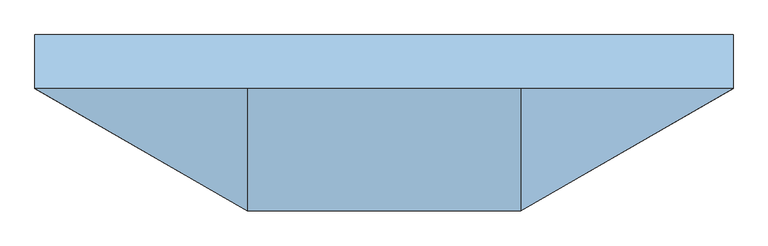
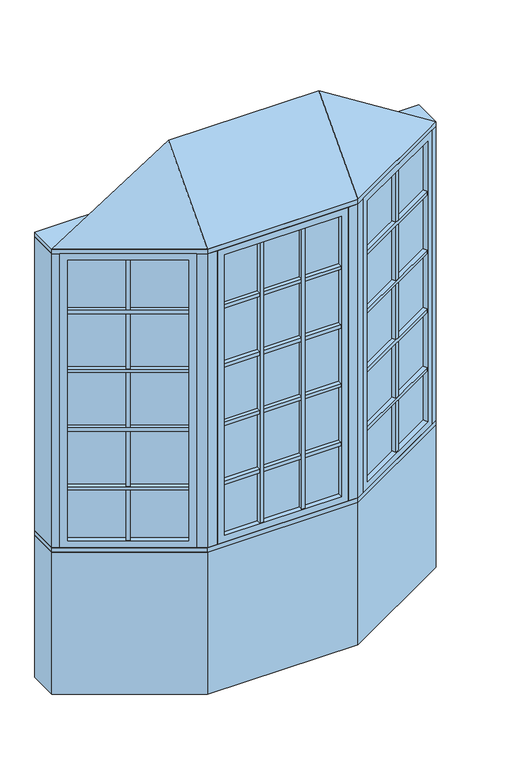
"""IFC4 building model written with IfcOpenShell, lengths in millimetres: window geometry, Pollard_Windows_Tudor Casement Bows and Bays : AML-BAY 30 AFR0516-10-600_GC."""

from ifc_helpers import new_model, si_unit, frame, origin, origin_with_axes, place, context, project, spatial, polyline, outline, extrude, faceted_brep, source, transform, mapped, element, save


def window_06915691(model_context):
    return source(origin(), model_context, "Body", "SolidModel", [
        extrude(outline(polyline([(460.381999, -376.6297343), (449.381999, -357.5771754), (915.6135794, -88.3982469), (926.6135794, -107.4508058), (460.381999, -376.6297343)])), frame((0.0, 0.0, 1110.998), z_axis=(0.0, 0.0, 1.0), x_axis=(1.0, 0.0, 0.0)), (0.0, 0.0, 1.0), 18.0),
        extrude(outline(polyline([(446.841999, -353.1777664), (435.841999, -334.1252075), (902.0735794, -64.946279), (913.0735794, -83.9988379), (446.841999, -353.1777664)])), frame((0.0, 0.0, 1110.998), z_axis=(0.0, 0.0, 1.0), x_axis=(1.0, 0.0, 0.0)), (0.0, 0.0, 1.0), 18.0),
        extrude(outline(polyline([(460.381999, -376.6297343), (449.381999, -357.5771754), (915.6135794, -88.3982469), (926.6135794, -107.4508058), (460.381999, -376.6297343)])), frame((0.0, 0.0, 1430.998), z_axis=(0.0, 0.0, 1.0), x_axis=(1.0, 0.0, 0.0)), (0.0, 0.0, 1.0), 18.0),
        extrude(outline(polyline([(446.841999, -353.1777664), (435.841999, -334.1252075), (902.0735794, -64.946279), (913.0735794, -83.9988379), (446.841999, -353.1777664)])), frame((0.0, 0.0, 1430.998), z_axis=(0.0, 0.0, 1.0), x_axis=(1.0, 0.0, 0.0)), (0.0, 0.0, 1.0), 18.0),
        extrude(outline(polyline([(460.381999, -376.6297343), (449.381999, -357.5771754), (915.6135794, -88.3982469), (926.6135794, -107.4508058), (460.381999, -376.6297343)])), frame((0.0, 0.0, 1750.998), z_axis=(0.0, 0.0, 1.0), x_axis=(1.0, 0.0, 0.0)), (0.0, 0.0, 1.0), 18.0),
        extrude(outline(polyline([(446.841999, -353.1777664), (435.841999, -334.1252075), (902.0735794, -64.946279), (913.0735794, -83.9988379), (446.841999, -353.1777664)])), frame((0.0, 0.0, 1750.998), z_axis=(0.0, 0.0, 1.0), x_axis=(1.0, 0.0, 0.0)), (0.0, 0.0, 1.0), 18.0),
        extrude(outline(polyline([(460.381999, -376.6297343), (449.381999, -357.5771754), (915.6135794, -88.3982469), (926.6135794, -107.4508058), (460.381999, -376.6297343)])), frame((0.0, 0.0, 2070.998), z_axis=(0.0, 0.0, 1.0), x_axis=(1.0, 0.0, 0.0)), (0.0, 0.0, 1.0), 18.0),
        extrude(outline(polyline([(446.841999, -353.1777664), (435.841999, -334.1252075), (902.0735794, -64.946279), (913.0735794, -83.9988379), (446.841999, -353.1777664)])), frame((0.0, 0.0, 2070.998), z_axis=(0.0, 0.0, 1.0), x_axis=(1.0, 0.0, 0.0)), (0.0, 0.0, 1.0), 18.0),
        extrude(outline(polyline([(690.2920178, -218.4877112), (701.2920178, -237.5402701), (685.7035606, -246.5402701), (674.7035606, -227.4877112), (690.2920178, -218.4877112)])), frame((0.0, 0.0, 835.8628), z_axis=(0.0, 0.0, 1.0), x_axis=(1.0, 0.0, 0.0)), (0.0, 0.0, 1.0), 1528.2704),
        extrude(outline(polyline([(687.7520178, -214.0883021), (672.1635606, -223.0883021), (661.1635606, -204.0357432), (676.7520178, -195.0357432), (687.7520178, -214.0883021)])), frame((0.0, 0.0, 835.8628), z_axis=(0.0, 0.0, 1.0), x_axis=(1.0, 0.0, 0.0)), (0.0, 0.0, 1.0), 1528.2704),
        extrude(outline(polyline([(926.612102, -82.0482469), (438.3834764, -363.9271754), (435.8434764, -359.5277664), (924.072102, -77.6488379), (926.612102, -82.0482469)])), frame((0.0, 0.0, 823.1628), z_axis=(0.0, 0.0, 1.0), x_axis=(1.0, 0.0, 0.0)), (0.0, 0.0, 1.0), 1553.6704),
        faceted_brep([(915.6135794, -88.3982469, 835.8628), (928.3135794, -110.3952922, 835.8628), (928.3135794, -110.3952922, 2364.1332), (915.6135794, -88.3982469, 2364.1332), (924.072102, -77.6488379, 823.1628), (926.612102, -82.0482469, 823.1628), (926.612102, -82.0482469, 2376.8332), (924.072102, -77.6488379, 2376.8332), (900.3735794, -62.0017926, 835.8628), (913.0735794, -83.9988379, 835.8628), (913.0735794, -83.9988379, 2364.1332), (900.3735794, -62.0017926, 2364.1332), (959.3734073, -92.4628922, 799.998), (931.4334073, -44.0693926, 799.998), (931.4334073, -44.0693926, 2399.998), (959.3734073, -92.4628922, 2399.998), (462.081999, -379.5742207, 2364.1332), (449.381999, -357.5771754, 2364.1332), (438.3834764, -363.9271754, 2376.8332), (435.8434764, -359.5277664, 2376.8332), (446.841999, -353.1777664, 2364.1332), (434.141999, -331.1807211, 2364.1332), (403.0821711, -349.1131211, 2399.998), (431.0221711, -397.5066207, 2399.998), (462.081999, -379.5742207, 835.8628), (449.381999, -357.5771754, 835.8628), (438.3834764, -363.9271754, 823.1628), (435.8434764, -359.5277664, 823.1628), (446.841999, -353.1777664, 835.8628), (434.141999, -331.1807211, 835.8628), (403.0821711, -349.1131211, 799.998), (431.0221711, -397.5066207, 799.998)], [[[0, 1, 2, 3]], [[4, 5, 6, 7]], [[8, 9, 10, 11]], [[12, 13, 14, 15]], [[3, 2, 16, 17]], [[7, 6, 18, 19]], [[11, 10, 20, 21]], [[15, 14, 22, 23]], [[17, 16, 24, 25]], [[19, 18, 26, 27]], [[21, 20, 28, 29]], [[23, 22, 30, 31]], [[25, 24, 1, 0]], [[5, 26, 18, 6], [3, 17, 25, 0]], [[27, 26, 5, 4]], [[7, 19, 27, 4], [9, 28, 20, 10]], [[29, 28, 9, 8]], [[13, 30, 22, 14], [11, 21, 29, 8]], [[31, 30, 13, 12]], [[15, 23, 31, 12], [1, 24, 16, 2]]]),
        extrude(outline(polyline([(116.852167, -397.1066207), (116.852167, -419.1066207), (98.852167, -419.1066207), (98.852167, -397.1066207), (116.852167, -397.1066207)])), frame((0.0, 0.0, 835.8628), z_axis=(0.0, 0.0, 1.0), x_axis=(1.0, 0.0, 0.0)), (0.0, 0.0, 1.0), 1528.2704),
        extrude(outline(polyline([(116.852167, -392.0266207), (98.852167, -392.0266207), (98.852167, -370.0266207), (116.852167, -370.0266207), (116.852167, -392.0266207)])), frame((0.0, 0.0, 835.8628), z_axis=(0.0, 0.0, 1.0), x_axis=(1.0, 0.0, 0.0)), (0.0, 0.0, 1.0), 1528.2704),
        extrude(outline(polyline([(-98.852167, -397.1066207), (-98.852167, -419.1066207), (-116.852167, -419.1066207), (-116.852167, -397.1066207), (-98.852167, -397.1066207)])), frame((0.0, 0.0, 835.8628), z_axis=(0.0, 0.0, 1.0), x_axis=(1.0, 0.0, 0.0)), (0.0, 0.0, 1.0), 1528.2704),
        extrude(outline(polyline([(-98.852167, -392.0266207), (-116.852167, -392.0266207), (-116.852167, -370.0266207), (-98.852167, -370.0266207), (-98.852167, -392.0266207)])), frame((0.0, 0.0, 835.8628), z_axis=(0.0, 0.0, 1.0), x_axis=(1.0, 0.0, 0.0)), (0.0, 0.0, 1.0), 1528.2704),
        extrude(outline(polyline([(-301.8561009, -419.1066207), (-301.8561009, -397.1066207), (301.8561009, -397.1066207), (301.8561009, -419.1066207), (-301.8561009, -419.1066207)])), frame((0.0, 0.0, 1110.998), z_axis=(0.0, 0.0, 1.0), x_axis=(1.0, 0.0, 0.0)), (0.0, 0.0, 1.0), 18.0),
        extrude(outline(polyline([(-301.8561009, -392.0266207), (-301.8561009, -370.0266207), (301.8561009, -370.0266207), (301.8561009, -392.0266207), (-301.8561009, -392.0266207)])), frame((0.0, 0.0, 1110.998), z_axis=(0.0, 0.0, 1.0), x_axis=(1.0, 0.0, 0.0)), (0.0, 0.0, 1.0), 18.0),
        extrude(outline(polyline([(-301.8561009, -419.1066207), (-301.8561009, -397.1066207), (301.8561009, -397.1066207), (301.8561009, -419.1066207), (-301.8561009, -419.1066207)])), frame((0.0, 0.0, 1430.998), z_axis=(0.0, 0.0, 1.0), x_axis=(1.0, 0.0, 0.0)), (0.0, 0.0, 1.0), 18.0),
        extrude(outline(polyline([(-301.8561009, -392.0266207), (-301.8561009, -370.0266207), (301.8561009, -370.0266207), (301.8561009, -392.0266207), (-301.8561009, -392.0266207)])), frame((0.0, 0.0, 1430.998), z_axis=(0.0, 0.0, 1.0), x_axis=(1.0, 0.0, 0.0)), (0.0, 0.0, 1.0), 18.0),
        extrude(outline(polyline([(-301.8561009, -419.1066207), (-301.8561009, -397.1066207), (301.8561009, -397.1066207), (301.8561009, -419.1066207), (-301.8561009, -419.1066207)])), frame((0.0, 0.0, 1750.998), z_axis=(0.0, 0.0, 1.0), x_axis=(1.0, 0.0, 0.0)), (0.0, 0.0, 1.0), 18.0),
        extrude(outline(polyline([(-301.8561009, -392.0266207), (-301.8561009, -370.0266207), (301.8561009, -370.0266207), (301.8561009, -392.0266207), (-301.8561009, -392.0266207)])), frame((0.0, 0.0, 1750.998), z_axis=(0.0, 0.0, 1.0), x_axis=(1.0, 0.0, 0.0)), (0.0, 0.0, 1.0), 18.0),
        extrude(outline(polyline([(-926.6135794, -107.4508058), (-915.6135794, -88.3982469), (-449.381999, -357.5771754), (-460.381999, -376.6297343), (-926.6135794, -107.4508058)])), frame((0.0, 0.0, 1110.998), z_axis=(0.0, 0.0, 1.0), x_axis=(1.0, 0.0, 0.0)), (0.0, 0.0, 1.0), 18.0),
        extrude(outline(polyline([(-913.0735794, -83.9988379), (-902.0735794, -64.946279), (-435.841999, -334.1252075), (-446.841999, -353.1777664), (-913.0735794, -83.9988379)])), frame((0.0, 0.0, 1110.998), z_axis=(0.0, 0.0, 1.0), x_axis=(1.0, 0.0, 0.0)), (0.0, 0.0, 1.0), 18.0),
        extrude(outline(polyline([(-926.6135794, -107.4508058), (-915.6135794, -88.3982469), (-449.381999, -357.5771754), (-460.381999, -376.6297343), (-926.6135794, -107.4508058)])), frame((0.0, 0.0, 1430.998), z_axis=(0.0, 0.0, 1.0), x_axis=(1.0, 0.0, 0.0)), (0.0, 0.0, 1.0), 18.0),
        extrude(outline(polyline([(-913.0735794, -83.9988379), (-902.0735794, -64.946279), (-435.841999, -334.1252075), (-446.841999, -353.1777664), (-913.0735794, -83.9988379)])), frame((0.0, 0.0, 1430.998), z_axis=(0.0, 0.0, 1.0), x_axis=(1.0, 0.0, 0.0)), (0.0, 0.0, 1.0), 18.0),
        extrude(outline(polyline([(-926.6135794, -107.4508058), (-915.6135794, -88.3982469), (-449.381999, -357.5771754), (-460.381999, -376.6297343), (-926.6135794, -107.4508058)])), frame((0.0, 0.0, 1750.998), z_axis=(0.0, 0.0, 1.0), x_axis=(1.0, 0.0, 0.0)), (0.0, 0.0, 1.0), 18.0),
        extrude(outline(polyline([(-913.0735794, -83.9988379), (-902.0735794, -64.946279), (-435.841999, -334.1252075), (-446.841999, -353.1777664), (-913.0735794, -83.9988379)])), frame((0.0, 0.0, 1750.998), z_axis=(0.0, 0.0, 1.0), x_axis=(1.0, 0.0, 0.0)), (0.0, 0.0, 1.0), 18.0),
        extrude(outline(polyline([(-926.6135794, -107.4508058), (-915.6135794, -88.3982469), (-449.381999, -357.5771754), (-460.381999, -376.6297343), (-926.6135794, -107.4508058)])), frame((0.0, 0.0, 2070.998), z_axis=(0.0, 0.0, 1.0), x_axis=(1.0, 0.0, 0.0)), (0.0, 0.0, 1.0), 18.0),
        extrude(outline(polyline([(-913.0735794, -83.9988379), (-902.0735794, -64.946279), (-435.841999, -334.1252075), (-446.841999, -353.1777664), (-913.0735794, -83.9988379)])), frame((0.0, 0.0, 2070.998), z_axis=(0.0, 0.0, 1.0), x_axis=(1.0, 0.0, 0.0)), (0.0, 0.0, 1.0), 18.0),
        extrude(outline(polyline([(-301.8561009, -419.1066207), (-301.8561009, -397.1066207), (301.8561009, -397.1066207), (301.8561009, -419.1066207), (-301.8561009, -419.1066207)])), frame((0.0, 0.0, 2070.998), z_axis=(0.0, 0.0, 1.0), x_axis=(1.0, 0.0, 0.0)), (0.0, 0.0, 1.0), 18.0),
        extrude(outline(polyline([(-301.8561009, -392.0266207), (-301.8561009, -370.0266207), (301.8561009, -370.0266207), (301.8561009, -392.0266207), (-301.8561009, -392.0266207)])), frame((0.0, 0.0, 2070.998), z_axis=(0.0, 0.0, 1.0), x_axis=(1.0, 0.0, 0.0)), (0.0, 0.0, 1.0), 18.0),
        extrude(outline(polyline([(-674.7035606, -227.4877112), (-685.7035606, -246.5402701), (-701.2920178, -237.5402701), (-690.2920178, -218.4877112), (-674.7035606, -227.4877112)])), frame((0.0, 0.0, 835.8628), z_axis=(0.0, 0.0, 1.0), x_axis=(1.0, 0.0, 0.0)), (0.0, 0.0, 1.0), 1528.2704),
        extrude(outline(polyline([(-672.1635606, -223.0883021), (-687.7520178, -214.0883021), (-676.7520178, -195.0357432), (-661.1635606, -204.0357432), (-672.1635606, -223.0883021)])), frame((0.0, 0.0, 835.8628), z_axis=(0.0, 0.0, 1.0), x_axis=(1.0, 0.0, 0.0)), (0.0, 0.0, 1.0), 1528.2704),
        extrude(outline(polyline([(-438.3834764, -363.9271754), (-926.612102, -82.0482469), (-924.072102, -77.6488379), (-435.8434764, -359.5277664), (-438.3834764, -363.9271754)])), frame((0.0, 0.0, 823.1628), z_axis=(0.0, 0.0, 1.0), x_axis=(1.0, 0.0, 0.0)), (0.0, 0.0, 1.0), 1553.6704),
        faceted_brep([(-446.841999, -353.1777664, 2364.1332), (-434.141999, -331.1807211, 2364.1332), (-434.141999, -331.1807211, 835.8628), (-446.841999, -353.1777664, 835.8628), (-438.3834764, -363.9271754, 2376.8332), (-435.8434764, -359.5277664, 2376.8332), (-435.8434764, -359.5277664, 823.1628), (-438.3834764, -363.9271754, 823.1628), (-462.081999, -379.5742207, 2364.1332), (-449.381999, -357.5771754, 2364.1332), (-449.381999, -357.5771754, 835.8628), (-462.081999, -379.5742207, 835.8628), (-403.0821711, -349.1131211, 2399.998), (-431.0221711, -397.5066207, 2399.998), (-431.0221711, -397.5066207, 799.998), (-403.0821711, -349.1131211, 799.998), (-900.3735794, -62.0017926, 835.8628), (-913.0735794, -83.9988379, 835.8628), (-924.072102, -77.6488379, 823.1628), (-926.612102, -82.0482469, 823.1628), (-915.6135794, -88.3982469, 835.8628), (-928.3135794, -110.3952922, 835.8628), (-959.3734073, -92.4628922, 799.998), (-931.4334073, -44.0693926, 799.998), (-900.3735794, -62.0017926, 2364.1332), (-913.0735794, -83.9988379, 2364.1332), (-924.072102, -77.6488379, 2376.8332), (-926.612102, -82.0482469, 2376.8332), (-915.6135794, -88.3982469, 2364.1332), (-928.3135794, -110.3952922, 2364.1332), (-959.3734073, -92.4628922, 2399.998), (-931.4334073, -44.0693926, 2399.998)], [[[0, 1, 2, 3]], [[4, 5, 6, 7]], [[8, 9, 10, 11]], [[12, 13, 14, 15]], [[3, 2, 16, 17]], [[7, 6, 18, 19]], [[11, 10, 20, 21]], [[15, 14, 22, 23]], [[17, 16, 24, 25]], [[19, 18, 26, 27]], [[21, 20, 28, 29]], [[23, 22, 30, 31]], [[15, 23, 31, 12], [1, 24, 16, 2]], [[25, 24, 1, 0]], [[5, 26, 18, 6], [3, 17, 25, 0]], [[27, 26, 5, 4]], [[7, 19, 27, 4], [9, 28, 20, 10]], [[29, 28, 9, 8]], [[13, 30, 22, 14], [11, 21, 29, 8]], [[31, 30, 13, 12]]]),
        extrude(outline(polyline([(314.5561009, -397.1066207), (-314.5561009, -397.1066207), (-314.5561009, -392.0266207), (314.5561009, -392.0266207), (314.5561009, -397.1066207)])), frame((0.0, 0.0, 823.1628), z_axis=(0.0, 0.0, 1.0), x_axis=(1.0, 0.0, 0.0)), (0.0, 0.0, 1.0), 1553.6704),
        faceted_brep([(301.8561009, -397.1066207, 835.8628), (301.8561009, -422.5066207, 835.8628), (301.8561009, -422.5066207, 2364.1332), (301.8561009, -397.1066207, 2364.1332), (314.5561009, -392.0266207, 823.1628), (314.5561009, -397.1066207, 823.1628), (314.5561009, -397.1066207, 2376.8332), (314.5561009, -392.0266207, 2376.8332), (301.8561009, -366.6266207, 835.8628), (301.8561009, -392.0266207, 835.8628), (301.8561009, -392.0266207, 2364.1332), (301.8561009, -366.6266207, 2364.1332), (337.7209009, -422.5066207, 799.998), (337.7209009, -366.6266207, 799.998), (337.7209009, -366.6266207, 2399.998), (337.7209009, -422.5066207, 2399.998), (-301.8561009, -422.5066207, 2364.1332), (-301.8561009, -397.1066207, 2364.1332), (-314.5561009, -397.1066207, 2376.8332), (-314.5561009, -392.0266207, 2376.8332), (-301.8561009, -392.0266207, 2364.1332), (-301.8561009, -366.6266207, 2364.1332), (-337.7209009, -366.6266207, 2399.998), (-337.7209009, -422.5066207, 2399.998), (-301.8561009, -422.5066207, 835.8628), (-301.8561009, -397.1066207, 835.8628), (-314.5561009, -397.1066207, 823.1628), (-314.5561009, -392.0266207, 823.1628), (-301.8561009, -392.0266207, 835.8628), (-301.8561009, -366.6266207, 835.8628), (-337.7209009, -366.6266207, 799.998), (-337.7209009, -422.5066207, 799.998)], [[[0, 1, 2, 3]], [[4, 5, 6, 7]], [[8, 9, 10, 11]], [[12, 13, 14, 15]], [[3, 2, 16, 17]], [[7, 6, 18, 19]], [[11, 10, 20, 21]], [[15, 14, 22, 23]], [[17, 16, 24, 25]], [[19, 18, 26, 27]], [[21, 20, 28, 29]], [[23, 22, 30, 31]], [[15, 23, 31, 12], [1, 24, 16, 2]], [[25, 24, 1, 0]], [[5, 26, 18, 6], [3, 17, 25, 0]], [[27, 26, 5, 4]], [[7, 19, 27, 4], [9, 28, 20, 10]], [[29, 28, 9, 8]], [[13, 30, 22, 14], [11, 21, 29, 8]], [[31, 30, 13, 12]]]),
        faceted_brep([(990.0, -74.7806207, 2425.398), (387.7209009, -422.5066207, 2425.398), (-387.7209009, -422.5066207, 2425.398), (-990.0, -74.7806207, 2425.398), (-387.7209009, -74.7806207, 2806.398), (387.7209009, -74.7806207, 2806.398)], [[[0, 1, 2, 3]], [[3, 2, 4]], [[2, 1, 5, 4]], [[1, 0, 5]], [[0, 3, 4, 5]]]),
        extrude(outline(polyline([(-990.0, 77.6193793), (990.0, 77.6193793), (990.0, -74.7806207), (387.7209009, -422.5066207), (-387.7209009, -422.5066207), (-990.0, -74.7806207), (-990.0, 77.6193793)])), frame((0.0, 0.0, 2399.998), z_axis=(0.0, 0.0, 1.0), x_axis=(1.0, 0.0, 0.0)), (0.0, 0.0, 1.0), 25.4),
        extrude(outline(polyline([(-990.0, -74.7806207), (-990.0, 77.6193793), (-949.1645431, 77.6193793), (-949.1645431, -74.7806207), (-959.3734073, -92.4628922), (-990.0, -74.7806207)])), frame((0.0, 0.0, 799.998), z_axis=(0.0, 0.0, 1.0), x_axis=(1.0, 0.0, 0.0)), (0.0, 0.0, 1.0), 1600.0),
        extrude(outline(polyline([(990.0, 77.6193793), (990.0, -74.7806207), (959.3734073, -92.4628922), (949.1645431, -74.7806207), (949.1645431, 77.6193793), (990.0, 77.6193793)])), frame((0.0, 0.0, 799.998), z_axis=(0.0, 0.0, 1.0), x_axis=(1.0, 0.0, 0.0)), (0.0, 0.0, 1.0), 1600.0),
        extrude(outline(polyline([(387.7209009, -422.5066207), (337.7209009, -422.5066207), (337.7209009, -372.5066207), (374.3234413, -372.5066207), (406.0221711, -354.2053505), (431.0221711, -397.5066207), (387.7209009, -422.5066207)])), frame((0.0, 0.0, 799.998), z_axis=(0.0, 0.0, 1.0), x_axis=(1.0, 0.0, 0.0)), (0.0, 0.0, 1.0), 1600.0),
        extrude(outline(polyline([(-387.7209009, -422.5066207), (-431.0221711, -397.5066207), (-406.0221711, -354.2053505), (-374.3234413, -372.5066207), (-337.7209009, -372.5066207), (-337.7209009, -422.5066207), (-387.7209009, -422.5066207)])), frame((0.0, 0.0, 799.998), z_axis=(0.0, 0.0, 1.0), x_axis=(1.0, 0.0, 0.0)), (0.0, 0.0, 1.0), 1600.0),
        extrude(outline(polyline([(-387.7209009, -422.5066207), (-990.0, -74.7806207), (-990.0, 77.6193793), (-949.1645431, 77.6193793), (-346.885444, -270.1066207), (346.885444, -270.1066207), (949.1645431, 77.6193793), (990.0, 77.6193793), (990.0, -74.7806207), (387.7209009, -422.5066207), (-387.7209009, -422.5066207)])), frame((0.0, 0.0, 774.598), z_axis=(0.0, 0.0, 1.0), x_axis=(1.0, 0.0, 0.0)), (0.0, 0.0, 1.0), 25.4),
        extrude(outline(polyline([(-990.0, -74.7806207), (-990.0, 77.6193793), (-949.1645431, 77.6193793), (-346.885444, -270.1066207), (346.885444, -270.1066207), (949.1645431, 77.6193793), (990.0, 77.6193793), (990.0, -74.7806207), (387.7209009, -422.5066207), (-387.7209009, -422.5066207), (-990.0, -74.7806207)])), origin_with_axes(), (0.0, 0.0, 1.0), 774.598),
    ])


if __name__ == "__main__":
    model = new_model("IFC4")
    model_context = context("Model", 3, world=origin())
    ifc_project = project(units=[si_unit("LENGTHUNIT", "METRE", prefix="MILLI")], contexts=[model_context])
    site = spatial("IfcSite", under=ifc_project)
    building = spatial("IfcBuilding", under=site)
    placement = place(None, origin())
    window_shape = window_06915691(model_context)
    element("IfcWindow", 1, ObjectType="Pollard_Windows_Tudor Casement Bows and Bays : AML-BAY 30 AFR0516-10-600_GC", at=placement, inside=building, context=model_context, shape_type="MappedRepresentation", body=[
        mapped(window_shape, transform((0.0, 0.0, 0.0), x_axis=(1.0, 0.0, 0.0), y_axis=(0.0, 1.0, 0.0), z_axis=(0.0, 0.0, 1.0))),
    ])
    save(model, "model.ifc")
